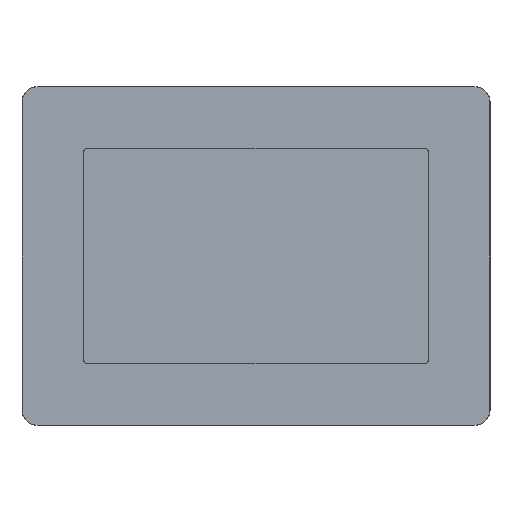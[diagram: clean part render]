
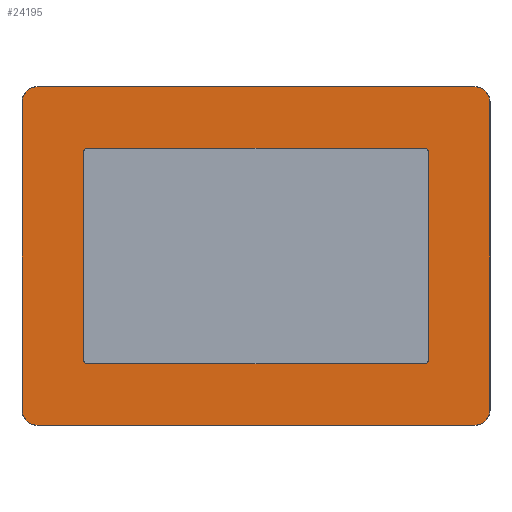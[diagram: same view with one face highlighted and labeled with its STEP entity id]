
A CAD part, top view. The second image highlights one B-rep face of the part: STEP entity #24195.
In plain terms, the highlighted planar face has unit normal (0, 0, 1).
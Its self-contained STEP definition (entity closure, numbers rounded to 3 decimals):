
#1224=FACE_BOUND('',#3825,.T.);
#1453=PLANE('',#26036);
#2259=FACE_OUTER_BOUND('',#3824,.T.);
#3824=EDGE_LOOP('',(#17120,#17121,#17122,#17123,#17124,#17125,#17126,#17127));
#3825=EDGE_LOOP('',(#17128,#17129,#17130,#17131,#17132,#17133,#17134,#17135));
#5474=LINE('',#36136,#7576);
#5475=LINE('',#36144,#7577);
#5476=LINE('',#36152,#7578);
#5477=LINE('',#36163,#7579);
#5480=LINE('',#36175,#7582);
#5481=LINE('',#36179,#7583);
#5482=LINE('',#36183,#7584);
#5483=LINE('',#36186,#7585);
#7576=VECTOR('',#29071,10.);
#7577=VECTOR('',#29082,10.);
#7578=VECTOR('',#29093,10.);
#7579=VECTOR('',#29106,10.);
#7582=VECTOR('',#29121,10.);
#7583=VECTOR('',#29124,10.);
#7584=VECTOR('',#29127,10.);
#7585=VECTOR('',#29130,10.);
#9697=CIRCLE('',#26018,9.8);
#9700=CIRCLE('',#26023,9.8);
#9703=CIRCLE('',#26028,9.8);
#9706=CIRCLE('',#26033,9.8);
#9708=CIRCLE('',#26037,2.05);
#9709=CIRCLE('',#26038,2.05);
#9710=CIRCLE('',#26039,2.05);
#9711=CIRCLE('',#26040,2.05);
#10730=VERTEX_POINT('',#36130);
#10732=VERTEX_POINT('',#36134);
#10733=VERTEX_POINT('',#36138);
#10734=VERTEX_POINT('',#36142);
#10735=VERTEX_POINT('',#36146);
#10736=VERTEX_POINT('',#36150);
#10738=VERTEX_POINT('',#36155);
#10740=VERTEX_POINT('',#36161);
#10741=VERTEX_POINT('',#36171);
#10742=VERTEX_POINT('',#36172);
#10743=VERTEX_POINT('',#36174);
#10744=VERTEX_POINT('',#36176);
#10745=VERTEX_POINT('',#36178);
#10746=VERTEX_POINT('',#36180);
#10747=VERTEX_POINT('',#36182);
#10748=VERTEX_POINT('',#36184);
#13144=EDGE_CURVE('',#10732,#10730,#5474,.T.);
#13146=EDGE_CURVE('',#10733,#10732,#9697,.T.);
#13148=EDGE_CURVE('',#10734,#10733,#5475,.T.);
#13150=EDGE_CURVE('',#10735,#10734,#9700,.T.);
#13152=EDGE_CURVE('',#10736,#10735,#5476,.T.);
#13154=EDGE_CURVE('',#10738,#10736,#9703,.T.);
#13157=EDGE_CURVE('',#10740,#10738,#5477,.T.);
#13159=EDGE_CURVE('',#10730,#10740,#9706,.T.);
#13162=EDGE_CURVE('',#10741,#10742,#9708,.T.);
#13163=EDGE_CURVE('',#10742,#10743,#5480,.T.);
#13164=EDGE_CURVE('',#10743,#10744,#9709,.T.);
#13165=EDGE_CURVE('',#10744,#10745,#5481,.T.);
#13166=EDGE_CURVE('',#10745,#10746,#9710,.T.);
#13167=EDGE_CURVE('',#10746,#10747,#5482,.T.);
#13168=EDGE_CURVE('',#10747,#10748,#9711,.T.);
#13169=EDGE_CURVE('',#10748,#10741,#5483,.T.);
#17120=ORIENTED_EDGE('',*,*,#13144,.F.);
#17121=ORIENTED_EDGE('',*,*,#13146,.F.);
#17122=ORIENTED_EDGE('',*,*,#13148,.F.);
#17123=ORIENTED_EDGE('',*,*,#13150,.F.);
#17124=ORIENTED_EDGE('',*,*,#13152,.F.);
#17125=ORIENTED_EDGE('',*,*,#13154,.F.);
#17126=ORIENTED_EDGE('',*,*,#13157,.F.);
#17127=ORIENTED_EDGE('',*,*,#13159,.F.);
#17128=ORIENTED_EDGE('',*,*,#13162,.T.);
#17129=ORIENTED_EDGE('',*,*,#13163,.T.);
#17130=ORIENTED_EDGE('',*,*,#13164,.T.);
#17131=ORIENTED_EDGE('',*,*,#13165,.T.);
#17132=ORIENTED_EDGE('',*,*,#13166,.T.);
#17133=ORIENTED_EDGE('',*,*,#13167,.T.);
#17134=ORIENTED_EDGE('',*,*,#13168,.T.);
#17135=ORIENTED_EDGE('',*,*,#13169,.T.);
#24195=ADVANCED_FACE('',(#2259,#1224),#1453,.T.);
#26018=AXIS2_PLACEMENT_3D('',#36140,#29076,#29077);
#26023=AXIS2_PLACEMENT_3D('',#36148,#29087,#29088);
#26028=AXIS2_PLACEMENT_3D('',#36157,#29098,#29099);
#26033=AXIS2_PLACEMENT_3D('',#36166,#29110,#29111);
#26036=AXIS2_PLACEMENT_3D('',#36170,#29117,#29118);
#26037=AXIS2_PLACEMENT_3D('',#36173,#29119,#29120);
#26038=AXIS2_PLACEMENT_3D('',#36177,#29122,#29123);
#26039=AXIS2_PLACEMENT_3D('',#36181,#29125,#29126);
#26040=AXIS2_PLACEMENT_3D('',#36185,#29128,#29129);
#29071=DIRECTION('',(-1.,0.,0.));
#29076=DIRECTION('center_axis',(0.,0.,-1.));
#29077=DIRECTION('ref_axis',(0.707,-0.707,0.));
#29082=DIRECTION('',(0.,-1.,0.));
#29087=DIRECTION('center_axis',(0.,0.,-1.));
#29088=DIRECTION('ref_axis',(0.707,0.707,0.));
#29093=DIRECTION('',(1.,0.,0.));
#29098=DIRECTION('center_axis',(0.,0.,-1.));
#29099=DIRECTION('ref_axis',(-0.707,0.707,0.));
#29106=DIRECTION('',(0.,1.,0.));
#29110=DIRECTION('center_axis',(0.,0.,-1.));
#29111=DIRECTION('ref_axis',(-0.707,-0.707,0.));
#29117=DIRECTION('center_axis',(0.,0.,1.));
#29118=DIRECTION('ref_axis',(1.,0.,0.));
#29119=DIRECTION('center_axis',(0.,0.,-1.));
#29120=DIRECTION('ref_axis',(1.,0.,0.));
#29121=DIRECTION('',(0.,-1.,0.));
#29122=DIRECTION('center_axis',(0.,0.,-1.));
#29123=DIRECTION('ref_axis',(0.,-1.,0.));
#29124=DIRECTION('',(-1.,0.,0.));
#29125=DIRECTION('center_axis',(0.,0.,-1.));
#29126=DIRECTION('ref_axis',(-1.,0.,0.));
#29127=DIRECTION('',(0.,1.,0.));
#29128=DIRECTION('center_axis',(0.,0.,-1.));
#29129=DIRECTION('ref_axis',(0.,1.,0.));
#29130=DIRECTION('',(1.,0.,0.));
#36130=CARTESIAN_POINT('',(-144.,-111.3,1.));
#36134=CARTESIAN_POINT('',(144.,-111.3,1.));
#36136=CARTESIAN_POINT('',(-72.,-111.3,1.));
#36138=CARTESIAN_POINT('',(153.8,-101.5,1.));
#36140=CARTESIAN_POINT('Origin',(144.,-101.5,1.));
#36142=CARTESIAN_POINT('',(153.8,101.5,1.));
#36144=CARTESIAN_POINT('',(153.8,-50.75,1.));
#36146=CARTESIAN_POINT('',(144.,111.3,1.));
#36148=CARTESIAN_POINT('Origin',(144.,101.5,1.));
#36150=CARTESIAN_POINT('',(-144.,111.3,1.));
#36152=CARTESIAN_POINT('',(72.,111.3,1.));
#36155=CARTESIAN_POINT('',(-153.8,101.5,1.));
#36157=CARTESIAN_POINT('Origin',(-144.,101.5,1.));
#36161=CARTESIAN_POINT('',(-153.8,-101.5,1.));
#36163=CARTESIAN_POINT('',(-153.8,50.75,1.));
#36166=CARTESIAN_POINT('Origin',(-144.,-101.5,1.));
#36170=CARTESIAN_POINT('Origin',(0.,0.,
1.));
#36171=CARTESIAN_POINT('',(111.3,70.85,1.));
#36172=CARTESIAN_POINT('',(113.35,68.8,1.));
#36173=CARTESIAN_POINT('Origin',(111.3,68.8,1.));
#36174=CARTESIAN_POINT('',(113.35,-68.8,1.));
#36175=CARTESIAN_POINT('',(113.35,-34.4,1.));
#36176=CARTESIAN_POINT('',(111.3,-70.85,1.));
#36177=CARTESIAN_POINT('Origin',(111.3,-68.8,1.));
#36178=CARTESIAN_POINT('',(-111.3,-70.85,1.));
#36179=CARTESIAN_POINT('',(-55.65,-70.85,1.));
#36180=CARTESIAN_POINT('',(-113.35,-68.8,1.));
#36181=CARTESIAN_POINT('Origin',(-111.3,-68.8,1.));
#36182=CARTESIAN_POINT('',(-113.35,68.8,1.));
#36183=CARTESIAN_POINT('',(-113.35,34.4,1.));
#36184=CARTESIAN_POINT('',(-111.3,70.85,1.));
#36185=CARTESIAN_POINT('Origin',(-111.3,68.8,1.));
#36186=CARTESIAN_POINT('',(55.65,70.85,1.));
